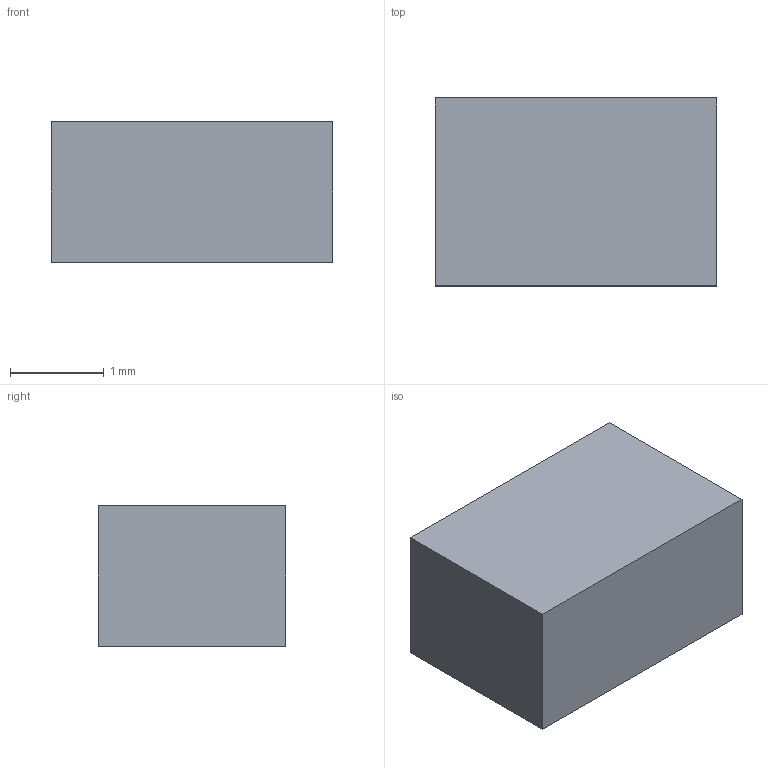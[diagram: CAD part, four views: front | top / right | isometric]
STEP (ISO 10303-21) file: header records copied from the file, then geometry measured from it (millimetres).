
FILE_DESCRIPTION(('Open CASCADE Model'),'2;1');
FILE_NAME('Open CASCADE Shape Model','2026-10-17T17:22:14',('Author'),( 'Open CASCADE'),'Open CASCADE STEP processor 7.9','Open CASCADE 7.9' ,'Unknown');
FILE_SCHEMA(('AUTOMOTIVE_DESIGN { 1 0 10303 214 1 1 1 1 }'));
Length unit declared in the file: millimetre
Products named in the file (1): Open CASCADE STEP translator 7.9 23
Bounding box: 3 x 2 x 1.5 mm (x, y, z)
Volume: 9 mm3; surface area: 27 mm2
Topology: 1 solids, 1 shells, 6 faces, 12 edges, 8 vertices
Faces by surface type: plane 6
Entity records: 322 total; most frequent: CARTESIAN_POINT 51, DIRECTION 50, LINE 36, VECTOR 36, ORIENTED_EDGE 24, PCURVE 24, DEFINITIONAL_REPRESENTATION 24, EDGE_CURVE 12
